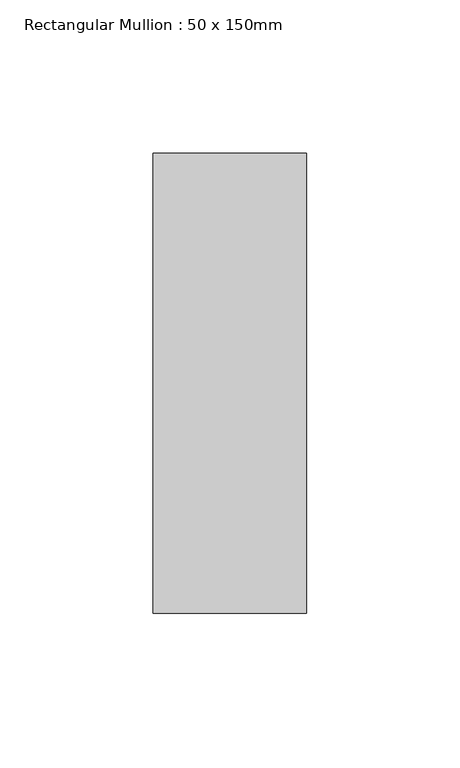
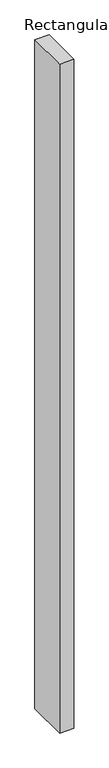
"""IFC4 building model written with IfcOpenShell, lengths in millimetres: member geometry, Rectangular Mullion : 50 x 150mm."""

from ifc_helpers import new_model, si_unit, frame, origin, place, context, project, spatial, polyline, outline, extrude, source, transform, mapped, element, save


def rectangular_mullion_50_x_150mm_0240cd64(model_context):
    return source(origin(), model_context, "Body", "SweptSolid", [
        extrude(outline(polyline([(0.0, 75.0), (0.0, -75.0), (-50.0, -75.0), (-50.0, 75.0), (0.0, 75.0)])), frame((0.0, 0.0, -2475.0), z_axis=(0.0, 0.0, 1.0), x_axis=(1.0, 0.0, 0.0)), (0.0, 0.0, 1.0), 2475.0),
    ])


if __name__ == "__main__":
    model = new_model("IFC4")
    model_context = context("Model", 3, world=origin())
    ifc_project = project(units=[si_unit("LENGTHUNIT", "METRE", prefix="MILLI")], contexts=[model_context])
    site = spatial("IfcSite", under=ifc_project)
    building = spatial("IfcBuilding", under=site)
    placement = place(None, origin())
    rectangular_mullion_50_x_150mm_shape = rectangular_mullion_50_x_150mm_0240cd64(model_context)
    element("IfcMember", 1, ObjectType="Rectangular Mullion : 50 x 150mm", at=placement, inside=building, context=model_context, shape_type="MappedRepresentation", body=[
        mapped(rectangular_mullion_50_x_150mm_shape, transform((0.0, 0.0, 0.0), x_axis=(1.0, 0.0, 0.0), y_axis=(0.0, 1.0, 0.0), z_axis=(0.0, 0.0, 1.0))),
    ])
    save(model, "model.ifc")
